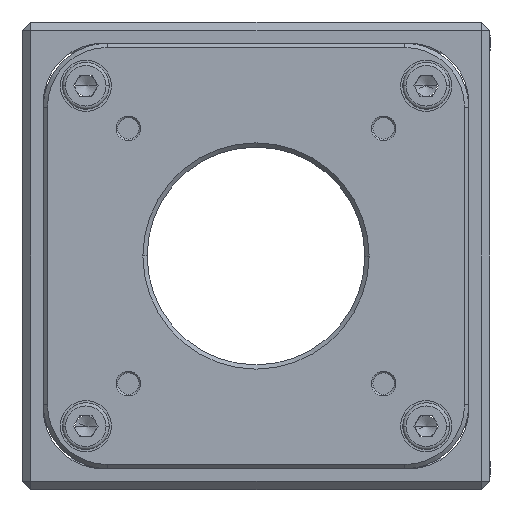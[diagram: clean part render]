
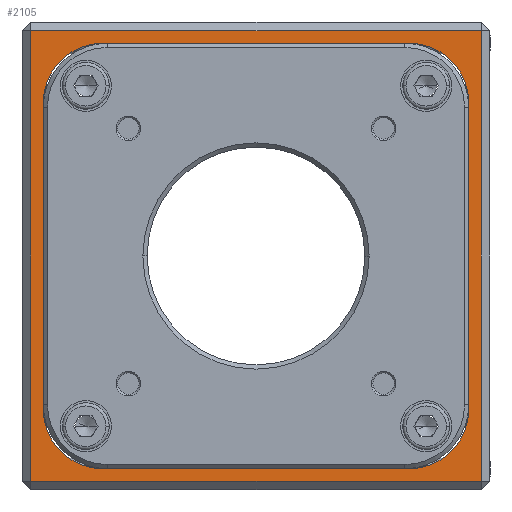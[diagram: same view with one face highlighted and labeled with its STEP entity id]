
A CAD part, front view. The second image highlights one B-rep face of the part: STEP entity #2105.
In plain terms, the highlighted planar face has unit normal (0, -1, 0).
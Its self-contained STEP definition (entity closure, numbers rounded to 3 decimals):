
#33 = AXIS2_PLACEMENT_3D ( 'NONE', #10836, #3010, #9462 ) ;
#194 = VERTEX_POINT ( 'NONE', #16064 ) ;
#458 = CARTESIAN_POINT ( 'NONE',  ( -84.883, -14.591, 0. ) ) ;
#585 = VERTEX_POINT ( 'NONE', #20987 ) ;
#750 = CARTESIAN_POINT ( 'NONE',  ( -83.383, -14.591, -18. ) ) ;
#793 = DIRECTION ( 'NONE',  ( 0., 0., -1. ) ) ;
#803 = CARTESIAN_POINT ( 'NONE',  ( -76.383, -14.591, -25. ) ) ;
#1014 = ORIENTED_EDGE ( 'NONE', *, *, #16007, .T. ) ;
#1507 = EDGE_CURVE ( 'NONE', #194, #5613, #17658, .T. ) ;
#2105 = ADVANCED_FACE ( 'NONE', ( #12953, #9654 ), #13061, .F. ) ;
#2646 = EDGE_CURVE ( 'NONE', #18221, #194, #5606, .T. ) ;
#3010 = DIRECTION ( 'NONE',  ( 0., 1., 0. ) ) ;
#3322 = ORIENTED_EDGE ( 'NONE', *, *, #5711, .T. ) ;
#4016 = ORIENTED_EDGE ( 'NONE', *, *, #7699, .T. ) ;
#4330 = ORIENTED_EDGE ( 'NONE', *, *, #14737, .T. ) ;
#4574 = AXIS2_PLACEMENT_3D ( 'NONE', #17478, #9442, #9539 ) ;
#4815 = CARTESIAN_POINT ( 'NONE',  ( -58.383, -14.591, 0. ) ) ;
#5428 = CARTESIAN_POINT ( 'NONE',  ( -31.883, -14.591, 26.5 ) ) ;
#5606 = LINE ( 'NONE', #458, #13428 ) ;
#5613 = VERTEX_POINT ( 'NONE', #8373 ) ;
#5674 = EDGE_CURVE ( 'NONE', #20814, #585, #20345, .T. ) ;
#5711 = EDGE_CURVE ( 'NONE', #5613, #19872, #7392, .T. ) ;
#5762 = DIRECTION ( 'NONE',  ( 0., 1., 0. ) ) ;
#5875 = CARTESIAN_POINT ( 'NONE',  ( -40.383, -14.591, 18. ) ) ;
#6091 = CARTESIAN_POINT ( 'NONE',  ( -33.383, -14.591, -18. ) ) ;
#6272 = VERTEX_POINT ( 'NONE', #20343 ) ;
#6357 = DIRECTION ( 'NONE',  ( -1., 0., 0. ) ) ;
#6586 = ORIENTED_EDGE ( 'NONE', *, *, #20808, .T. ) ;
#6643 = EDGE_LOOP ( 'NONE', ( #7038, #18742, #3322, #1014 ) ) ;
#6847 = CARTESIAN_POINT ( 'NONE',  ( -76.383, -14.591, 25. ) ) ;
#6924 = CIRCLE ( 'NONE', #8315, 7. ) ;
#6994 = DIRECTION ( 'NONE',  ( 0., 0., -1. ) ) ;
#7038 = ORIENTED_EDGE ( 'NONE', *, *, #2646, .T. ) ;
#7072 = VERTEX_POINT ( 'NONE', #803 ) ;
#7207 = VECTOR ( 'NONE', #6357, 1000. ) ;
#7293 = DIRECTION ( 'NONE',  ( 0., 0., 1. ) ) ;
#7340 = VECTOR ( 'NONE', #17064, 1000. ) ;
#7381 = DIRECTION ( 'NONE',  ( 0., 0., 1. ) ) ;
#7392 = LINE ( 'NONE', #14128, #11078 ) ;
#7639 = ORIENTED_EDGE ( 'NONE', *, *, #5674, .T. ) ;
#7699 = EDGE_CURVE ( 'NONE', #6272, #19467, #15243, .T. ) ;
#7936 = AXIS2_PLACEMENT_3D ( 'NONE', #4815, #9855, #8370 ) ;
#7959 = CARTESIAN_POINT ( 'NONE',  ( -84.883, -14.591, 26.5 ) ) ;
#8315 = AXIS2_PLACEMENT_3D ( 'NONE', #8779, #15415, #7381 ) ;
#8370 = DIRECTION ( 'NONE',  ( 0., 0., 1. ) ) ;
#8373 = CARTESIAN_POINT ( 'NONE',  ( -31.883, -14.591, -26.5 ) ) ;
#8779 = CARTESIAN_POINT ( 'NONE',  ( -40.383, -14.591, -18. ) ) ;
#9070 = EDGE_LOOP ( 'NONE', ( #4330, #10268, #7639, #17727, #6586, #4016, #14051, #20474 ) ) ;
#9442 = DIRECTION ( 'NONE',  ( 0., 1., 0. ) ) ;
#9462 = DIRECTION ( 'NONE',  ( 0., 0., 1. ) ) ;
#9539 = DIRECTION ( 'NONE',  ( 0., 0., 1. ) ) ;
#9654 = FACE_BOUND ( 'NONE', #9070, .T. ) ;
#9790 = LINE ( 'NONE', #16344, #17767 ) ;
#9855 = DIRECTION ( 'NONE',  ( 0., 1., 0. ) ) ;
#10268 = ORIENTED_EDGE ( 'NONE', *, *, #17178, .T. ) ;
#10485 = DIRECTION ( 'NONE',  ( 0., 0., 1. ) ) ;
#10494 = CARTESIAN_POINT ( 'NONE',  ( -33.383, -14.591, 25. ) ) ;
#10836 = CARTESIAN_POINT ( 'NONE',  ( -76.383, -14.591, -18. ) ) ;
#11078 = VECTOR ( 'NONE', #7293, 1000. ) ;
#11411 = VERTEX_POINT ( 'NONE', #6091 ) ;
#11837 = AXIS2_PLACEMENT_3D ( 'NONE', #5875, #5762, #15627 ) ;
#11952 = VERTEX_POINT ( 'NONE', #6847 ) ;
#12123 = DIRECTION ( 'NONE',  ( -1., 0., 0. ) ) ;
#12252 = EDGE_CURVE ( 'NONE', #19467, #11411, #15370, .T. ) ;
#12297 = CARTESIAN_POINT ( 'NONE',  ( -33.383, -14.591, 18. ) ) ;
#12953 = FACE_OUTER_BOUND ( 'NONE', #6643, .T. ) ;
#13061 = PLANE ( 'NONE',  #7936 ) ;
#13428 = VECTOR ( 'NONE', #6994, 1000. ) ;
#13452 = CARTESIAN_POINT ( 'NONE',  ( -33.383, -14.591, 25. ) ) ;
#14023 = CARTESIAN_POINT ( 'NONE',  ( -83.383, -14.591, 25. ) ) ;
#14051 = ORIENTED_EDGE ( 'NONE', *, *, #12252, .T. ) ;
#14128 = CARTESIAN_POINT ( 'NONE',  ( -31.883, -14.591, 0. ) ) ;
#14737 = EDGE_CURVE ( 'NONE', #20633, #7072, #9790, .T. ) ;
#14894 = CARTESIAN_POINT ( 'NONE',  ( -40.383, -14.591, -25. ) ) ;
#15243 = CIRCLE ( 'NONE', #11837, 7. ) ;
#15370 = LINE ( 'NONE', #13452, #15647 ) ;
#15415 = DIRECTION ( 'NONE',  ( 0., 1., 0. ) ) ;
#15627 = DIRECTION ( 'NONE',  ( 0., 0., 1. ) ) ;
#15647 = VECTOR ( 'NONE', #793, 1000. ) ;
#16007 = EDGE_CURVE ( 'NONE', #19872, #18221, #19332, .T. ) ;
#16054 = CARTESIAN_POINT ( 'NONE',  ( -58.383, -14.591, -26.5 ) ) ;
#16064 = CARTESIAN_POINT ( 'NONE',  ( -84.883, -14.591, -26.5 ) ) ;
#16344 = CARTESIAN_POINT ( 'NONE',  ( -33.383, -14.591, -25. ) ) ;
#17064 = DIRECTION ( 'NONE',  ( 1., 0., 0. ) ) ;
#17178 = EDGE_CURVE ( 'NONE', #7072, #20814, #17535, .T. ) ;
#17478 = CARTESIAN_POINT ( 'NONE',  ( -76.383, -14.591, 18. ) ) ;
#17535 = CIRCLE ( 'NONE', #33, 7. ) ;
#17658 = LINE ( 'NONE', #16054, #17832 ) ;
#17727 = ORIENTED_EDGE ( 'NONE', *, *, #20827, .T. ) ;
#17767 = VECTOR ( 'NONE', #12123, 1000. ) ;
#17832 = VECTOR ( 'NONE', #20959, 1000. ) ;
#17931 = CIRCLE ( 'NONE', #4574, 7. ) ;
#18221 = VERTEX_POINT ( 'NONE', #7959 ) ;
#18641 = LINE ( 'NONE', #10494, #7340 ) ;
#18742 = ORIENTED_EDGE ( 'NONE', *, *, #1507, .T. ) ;
#19332 = LINE ( 'NONE', #19754, #7207 ) ;
#19400 = EDGE_CURVE ( 'NONE', #11411, #20633, #6924, .T. ) ;
#19467 = VERTEX_POINT ( 'NONE', #12297 ) ;
#19754 = CARTESIAN_POINT ( 'NONE',  ( -58.383, -14.591, 26.5 ) ) ;
#19872 = VERTEX_POINT ( 'NONE', #5428 ) ;
#20310 = VECTOR ( 'NONE', #10485, 1000. ) ;
#20343 = CARTESIAN_POINT ( 'NONE',  ( -40.383, -14.591, 25. ) ) ;
#20345 = LINE ( 'NONE', #14023, #20310 ) ;
#20474 = ORIENTED_EDGE ( 'NONE', *, *, #19400, .T. ) ;
#20633 = VERTEX_POINT ( 'NONE', #14894 ) ;
#20808 = EDGE_CURVE ( 'NONE', #11952, #6272, #18641, .T. ) ;
#20814 = VERTEX_POINT ( 'NONE', #750 ) ;
#20827 = EDGE_CURVE ( 'NONE', #585, #11952, #17931, .T. ) ;
#20959 = DIRECTION ( 'NONE',  ( 1., 0., 0. ) ) ;
#20987 = CARTESIAN_POINT ( 'NONE',  ( -83.383, -14.591, 18. ) ) ;
